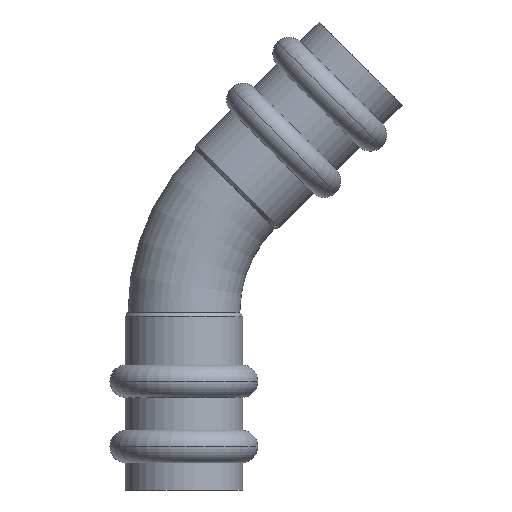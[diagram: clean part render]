
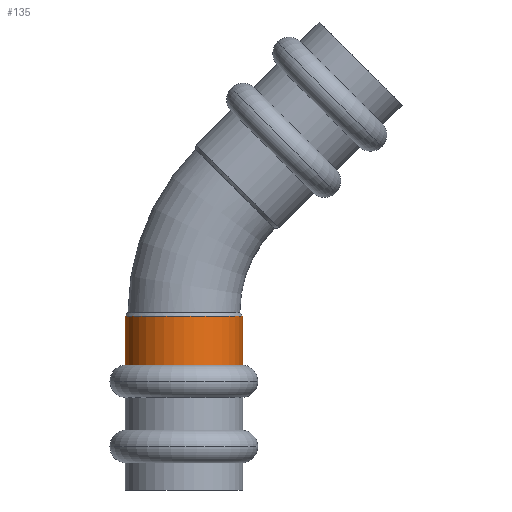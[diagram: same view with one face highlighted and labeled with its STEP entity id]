
A CAD part, front view. The second image highlights one B-rep face of the part: STEP entity #135.
In plain terms, the highlighted cylindrical face has radius 10.8 mm (diameter 21.6 mm), a partial arc.
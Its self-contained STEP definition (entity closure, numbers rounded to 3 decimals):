
#135=ADVANCED_FACE('',(#319),#320,.T.);
#319=FACE_OUTER_BOUND('',#567,.T.);
#320=CYLINDRICAL_SURFACE('',#568,10.8);
#567=EDGE_LOOP('',(#899,#900,#901,#902));
#568=AXIS2_PLACEMENT_3D('',#903,#904,#905);
#899=ORIENTED_EDGE('',*,*,#1424,.F.);
#900=ORIENTED_EDGE('',*,*,#1425,.T.);
#901=ORIENTED_EDGE('',*,*,#1426,.F.);
#902=ORIENTED_EDGE('',*,*,#1427,.F.);
#903=CARTESIAN_POINT('',(0.,0.0,27.5));
#904=DIRECTION('',(0.,0.0,-1.0));
#905=DIRECTION('',(1.0,0.0,0.));
#1424=EDGE_CURVE('',#1691,#1692,#1693,.T.);
#1425=EDGE_CURVE('',#1691,#1694,#1695,.T.);
#1426=EDGE_CURVE('',#1696,#1694,#1697,.T.);
#1427=EDGE_CURVE('',#1692,#1696,#1698,.T.);
#1691=VERTEX_POINT('',#2148);
#1692=VERTEX_POINT('',#2149);
#1693=LINE('',#2150,#2151);
#1694=VERTEX_POINT('',#2152);
#1695=CIRCLE('',#2153,10.8);
#1696=VERTEX_POINT('',#2154);
#1697=LINE('',#2155,#2156);
#1698=CIRCLE('',#2157,10.8);
#2148=CARTESIAN_POINT('',(10.8,0.,32.));
#2149=CARTESIAN_POINT('',(10.8,0.,23.));
#2150=CARTESIAN_POINT('',(10.8,0.,27.5));
#2151=VECTOR('',#2664,1.0);
#2152=CARTESIAN_POINT('',(-10.8,0.,32.));
#2153=AXIS2_PLACEMENT_3D('',#2665,#2666,#2667);
#2154=CARTESIAN_POINT('',(-10.8,0.,23.));
#2155=CARTESIAN_POINT('',(-10.8,0.,27.5));
#2156=VECTOR('',#2668,1.0);
#2157=AXIS2_PLACEMENT_3D('',#2669,#2670,#2671);
#2664=DIRECTION('',(0.,0.0,-1.0));
#2665=CARTESIAN_POINT('',(0.,0.0,32.));
#2666=DIRECTION('',(0.,0.0,-1.0));
#2667=DIRECTION('',(1.0,0.0,0.));
#2668=DIRECTION('',(0.,-0.0,1.0));
#2669=CARTESIAN_POINT('',(0.,0.0,23.));
#2670=DIRECTION('',(0.,0.0,-1.0));
#2671=DIRECTION('',(1.0,0.0,0.));
